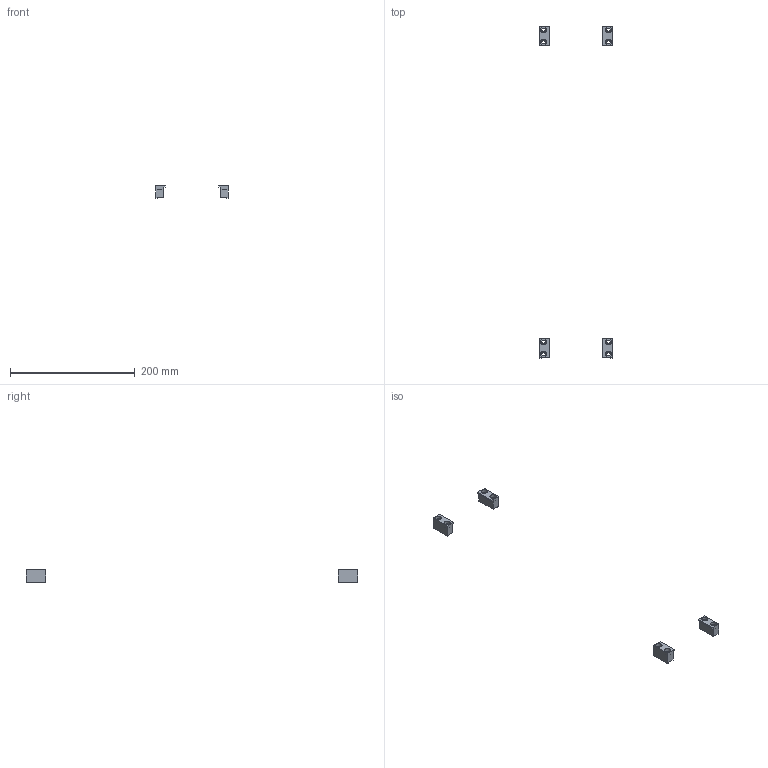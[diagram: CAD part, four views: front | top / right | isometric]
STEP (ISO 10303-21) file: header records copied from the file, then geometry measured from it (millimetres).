
FILE_DESCRIPTION(/* description */ ('Toe Clamps - Short 30 mm (4 pcs)'),/* implementation_level */ '2;1');
FILE_NAME(/* name */ 'D:\InventorWorkspace2017\CAD\Projekte_EDEM\HLR\0232.901-01.stp',/* time_stamp */ '2019-02-13T12:20:54+01:00',/* author */ ('AR64535'),/* organization */ (''),/* preprocessor_version */ 'ST-DEVELOPER v16.5',/* originating_system */ 'Autodesk Inventor 2017',/* authorisation */ '');
FILE_SCHEMA (('AUTOMOTIVE_DESIGN { 1 0 10303 214 3 1 1 }'));
Length unit declared in the file: millimetre
Products named in the file (2): 0232.901-01; 0231.032
Assembly tree (4 placements, depth 2):
  0232.901-01
    0231.032  x4
Bounding box: 116 x 532 x 19.9 mm (x, y, z)
Volume: 24287.6 mm3; surface area: 13667.9 mm2
Topology: 4 solids, 4 shells, 64 faces, 144 edges, 96 vertices
Faces by surface type: plane 48, cylinder 16
Full cylindrical faces by diameter (mm): 5.5 x8, 10 x8
Entity records: 516 total; most frequent: DIRECTION 84, CARTESIAN_POINT 78, ORIENTED_EDGE 64, EDGE_CURVE 32, AXIS2_PLACEMENT_3D 30, EDGE_LOOP 26, LINE 24, VECTOR 24
